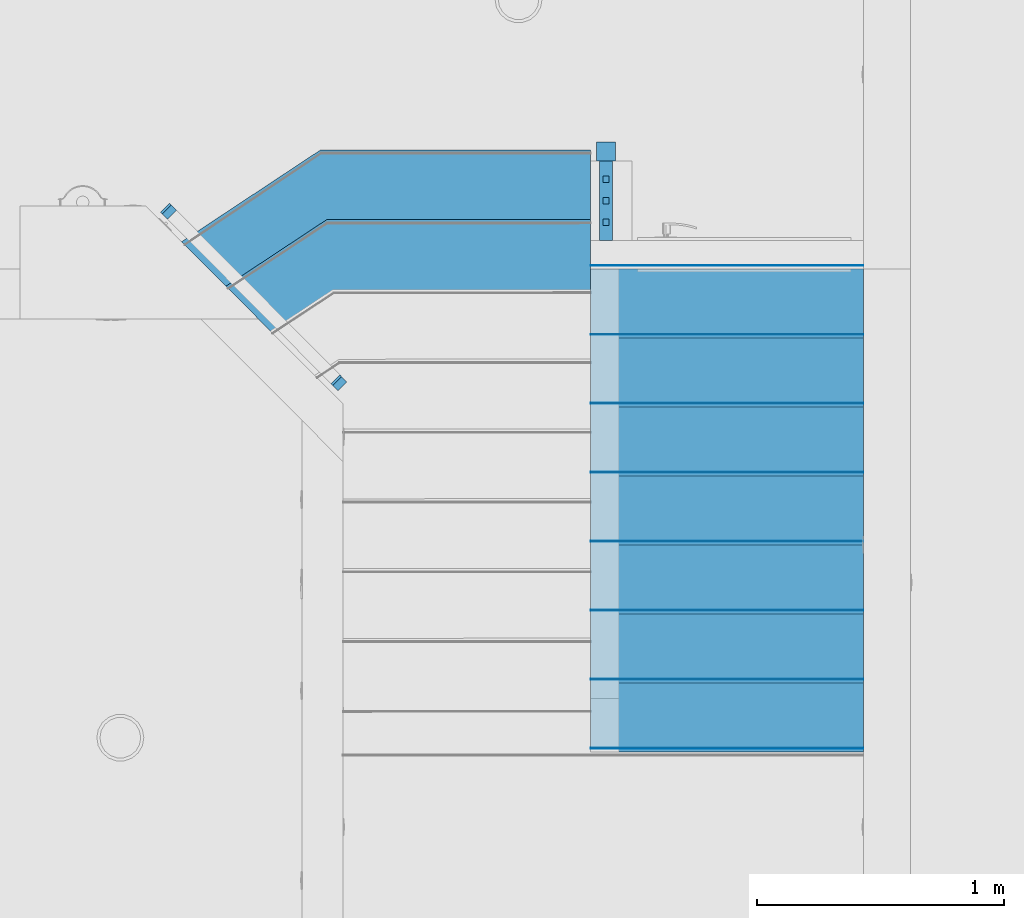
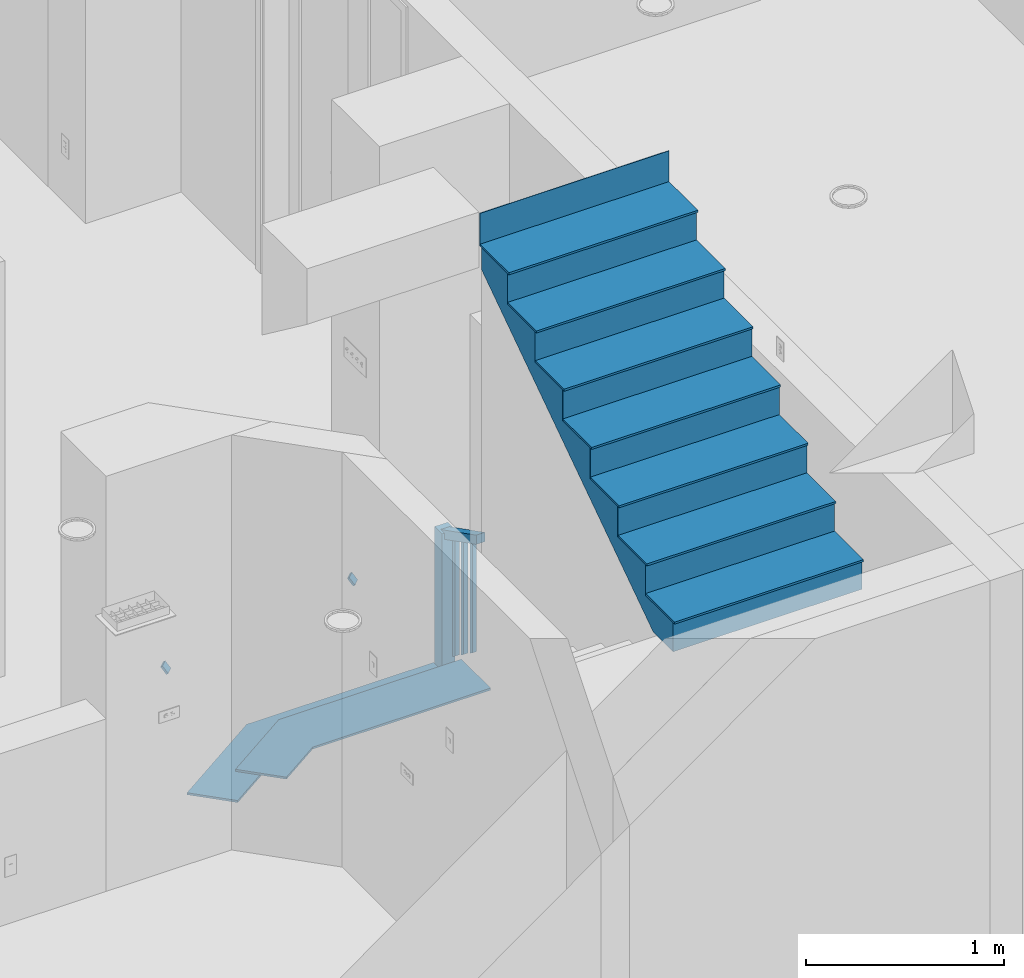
# One storey, part 2 of 48: 25 building element parts, 4 elements without a shape of their own.
"""IFC2X3 building model written with IfcOpenShell, lengths in inches."""

from ifc_helpers import new_model, entity, si_unit, converted_unit, derived_unit, money_unit, direction, frame, origin_with_axes, place, context, subcontext, project, spatial, faceted_brep, material, type_object, element, aggregate, save


model = new_model("IFC2X3")

# Units and contexts
model_context = context("Model", 3, precision=0.00039370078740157, world=origin_with_axes(), true_north=direction((0.0, 1.0)))
plan_context = context("Plan", 3, precision=0.00039370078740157, world=origin_with_axes(), true_north=direction((0.0, 1.0)))
body_context = subcontext(model_context, "Body", "Model", "MODEL_VIEW")
ifc_project = project(units=[converted_unit("LENGTHUNIT", "INCH", entity("IfcPositiveLengthMeasure", 0.0254), si_unit("LENGTHUNIT", "METRE"), dimensions=[1, 0, 0, 0, 0, 0, 0]), converted_unit("AREAUNIT", "SQUARE_FOOT", entity("IfcPositiveLengthMeasure", 0.09290304), si_unit("AREAUNIT", "SQUARE_METRE"), dimensions=[2, 0, 0, 0, 0, 0, 0]), si_unit("PLANEANGLEUNIT", "RADIAN"), si_unit("SOLIDANGLEUNIT", "STERADIAN"), money_unit("USD"), converted_unit("TIMEUNIT", "Year", entity("IfcTimeMeasure", 31557600.0), si_unit("TIMEUNIT", "SECOND"), dimensions=[0, 0, 1, 0, 0, 0, 0]), si_unit("MASSUNIT", "GRAM", prefix="KILO"), si_unit("THERMODYNAMICTEMPERATUREUNIT", "DEGREE_CELSIUS"), si_unit("LUMINOUSINTENSITYUNIT", "LUMEN"), si_unit("ENERGYUNIT", "JOULE", prefix="MEGA"), derived_unit("SPECIFICHEATCAPACITYUNIT", [(si_unit("ENERGYUNIT", "JOULE"), 1), (si_unit("MASSUNIT", "GRAM", prefix="KILO"), -1), (si_unit("THERMODYNAMICTEMPERATUREUNIT", "KELVIN"), -1)])], contexts=[model_context, plan_context])

# Site, building, storey
site_placement = place(None, origin_with_axes())
site = spatial("IfcSite", under=ifc_project, at=site_placement, Name="Site", CompositionType="ELEMENT")
building_placement = place(site_placement, origin_with_axes())
building = spatial("IfcBuilding", under=site, at=building_placement, Name="Building", CompositionType="ELEMENT")
storey_placement = place(building_placement, origin_with_axes())
storey = spatial("IfcBuildingStorey", under=building, at=storey_placement, Name="First Floor", CompositionType="ELEMENT", Elevation=0.0)

# Proxy, building element parts
building_element_proxy_type = type_object("IfcBuildingElementProxyType", Name="Railing Type", PredefinedType="NOTDEFINED")
proxy_1_placement = place(storey_placement, frame((161.4999999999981, 105.9237063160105, -3.290656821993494), z_axis=(0.0, 0.0, 1.0), x_axis=(-1.0, 0.0, 0.0)))
proxy_1 = element("IfcBuildingElementProxy", 1, at=proxy_1_placement, inside=storey, type_object=building_element_proxy_type, Name="RAILING - 001")
ifc_material = material(Name="Wood - Trim")
building_element_part_1_placement = place(proxy_1_placement, origin_with_axes())
building_element_part_1 = element("IfcBuildingElementPart", 2, at=building_element_part_1_placement, material=ifc_material, Name="Wood - Trim", context=body_context, shape_type="Brep", body=[
    faceted_brep([(1.901894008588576, -3.271557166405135, 68.29777093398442), (1.062592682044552, -2.426411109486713, 66.6911280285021), (0.7795628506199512, -2.141410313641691, 66.98890086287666), (1.61886417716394, -2.986556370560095, 68.59554376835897), (0.4827819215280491, -4.680855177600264, 68.29777093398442), (-0.3565194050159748, -3.835709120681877, 66.6911280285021), (-0.6395492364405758, -3.550708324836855, 66.98890086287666), (0.1997520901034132, -4.395854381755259, 68.59554376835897)], [[[0, 1, 2, 3]], [[0, 4, 5, 1]], [[1, 5, 6, 2]], [[3, 2, 6, 7]], [[4, 0, 3, 7]], [[5, 4, 7, 6]]]),
])
building_element_part_2_placement = place(proxy_1_placement, origin_with_axes())
building_element_part_2 = element("IfcBuildingElementPart", 3, at=building_element_part_2_placement, material=ifc_material, Name="Wood - Trim", context=body_context, shape_type="Brep", body=[
    faceted_brep([(27.37950456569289, -31.76488134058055, 39.99999999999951), (26.54020323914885, -30.91973528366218, 38.39335709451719), (26.8232330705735, -31.20473607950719, 38.09558426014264), (27.66253439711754, -32.04988213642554, 39.70222716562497), (28.79861665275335, -30.35558332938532, 39.99999999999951), (27.95931532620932, -29.51043727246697, 38.39335709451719), (28.24234515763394, -29.79543806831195, 38.09558426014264), (29.08164648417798, -30.6405841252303, 39.70222716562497)], [[[0, 1, 2, 3]], [[0, 4, 5, 1]], [[1, 5, 6, 2]], [[3, 2, 6, 7]], [[4, 0, 3, 7]], [[5, 4, 7, 6]]]),
])
aggregate(proxy_1, [building_element_part_1, building_element_part_2])

# Stair, building element parts
stair_1_placement = place(storey_placement, frame((200.999999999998, 50.50000017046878, 67.99999999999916), z_axis=(0.0, 0.0, 1.0), x_axis=(1.0, 0.0, 0.0)))
stair_1 = element("IfcStair", 4, at=stair_1_placement, inside=storey, Name="STAIR-01", ShapeType="NOTDEFINED")
building_element_part_3_placement = place(stair_1_placement, origin_with_axes())
building_element_part_3 = element("IfcBuildingElementPart", 5, at=building_element_part_3_placement, material=ifc_material, Name="Wood - Trim", context=body_context, shape_type="Brep", body=[
    faceted_brep([(43.49999999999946, 69.66666651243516, 41.72989677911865), (43.49999999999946, 73.33333317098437, 44.2298967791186), (43.49999999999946, 76.99999982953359, 46.72989677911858), (43.49999999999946, 76.99999982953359, 51.99999999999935), (43.49999999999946, 66.62893686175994, 51.99999999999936), (43.49999999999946, 66.62893686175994, 44.49999999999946), (43.49999999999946, 55.62893688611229, 44.49999999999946), (43.49999999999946, 55.62893688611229, 36.99999999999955), (43.49999999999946, 44.62893691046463, 36.99999999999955), (43.49999999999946, 44.62893691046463, 29.49999999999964), (43.49999999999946, 33.62893693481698, 29.49999999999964), (43.49999999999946, 33.62893693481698, 21.99999999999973), (43.49999999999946, 22.62893695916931, 21.99999999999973), (43.49999999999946, 22.62893695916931, 14.49999999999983), (43.49999999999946, 11.62893698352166, 14.49999999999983), (43.49999999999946, 11.62893698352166, 6.999999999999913), (43.49999999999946, 0.6289370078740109, 6.999999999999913), (43.49999999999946, 0.6289370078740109, 0.0), (43.49999999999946, 8.4628180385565, 0.0), (43.49999999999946, 10.99999997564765, 1.729896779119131), (43.49999999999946, 14.66666663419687, 4.229896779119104), (43.49999999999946, 18.33333329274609, 6.72989677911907), (43.49999999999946, 21.99999995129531, 9.229896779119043), (43.49999999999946, 25.66666660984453, 11.72989677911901), (43.49999999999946, 29.33333326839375, 14.22989677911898), (43.49999999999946, 32.99999992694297, 16.72989677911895), (43.49999999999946, 36.66666658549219, 19.22989677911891), (43.49999999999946, 40.33333324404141, 21.72989677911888), (43.49999999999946, 43.99999990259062, 24.22989677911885), (43.49999999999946, 47.66666656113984, 26.72989677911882), (43.49999999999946, 51.33333321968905, 29.22989677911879), (43.49999999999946, 54.99999987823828, 31.72989677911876), (43.49999999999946, 58.6666665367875, 34.22989677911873), (43.49999999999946, 62.33333319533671, 36.7298967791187), (43.49999999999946, 65.99999985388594, 39.22989677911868), (0.0, 73.33333317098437, 44.2298967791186), (0.0, 69.66666651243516, 41.72989677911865), (0.0, 76.99999982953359, 46.72989677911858), (0.0, 76.99999982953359, 51.99999999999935), (0.0, 66.62893686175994, 51.99999999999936), (0.0, 66.62893686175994, 44.49999999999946), (0.0, 55.62893688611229, 44.49999999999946), (0.0, 55.62893688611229, 36.99999999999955), (0.0, 44.62893691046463, 36.99999999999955), (0.0, 44.62893691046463, 29.49999999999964), (0.0, 33.62893693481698, 29.49999999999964), (0.0, 33.62893693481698, 21.99999999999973), (0.0, 22.62893695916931, 21.99999999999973), (0.0, 22.62893695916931, 14.49999999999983), (0.0, 11.62893698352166, 14.49999999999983), (0.0, 11.62893698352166, 6.999999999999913), (0.0, 0.6289370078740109, 6.999999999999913), (0.0, 0.6289370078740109, 0.0), (0.0, 8.4628180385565, 0.0), (0.0, 10.99999997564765, 1.729896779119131), (0.0, 14.66666663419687, 4.229896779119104), (0.0, 18.33333329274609, 6.72989677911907), (0.0, 21.99999995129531, 9.229896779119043), (0.0, 25.66666660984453, 11.72989677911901), (0.0, 29.33333326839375, 14.22989677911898), (0.0, 32.99999992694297, 16.72989677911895), (0.0, 36.66666658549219, 19.22989677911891), (0.0, 40.33333324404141, 21.72989677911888), (0.0, 43.99999990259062, 24.22989677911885), (0.0, 47.66666656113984, 26.72989677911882), (0.0, 51.33333321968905, 29.22989677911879), (0.0, 54.99999987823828, 31.72989677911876), (0.0, 58.6666665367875, 34.22989677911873), (0.0, 62.33333319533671, 36.7298967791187), (0.0, 65.99999985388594, 39.22989677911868)], [[[0, 1, 2, 3, 4, 5, 6, 7, 8, 9, 10, 11, 12, 13, 14, 15, 16, 17, 18, 19, 20, 21, 22, 23, 24, 25, 26, 27, 28, 29, 30, 31, 32, 33, 34]], [[35, 1, 0, 36]], [[37, 2, 1, 35]], [[3, 2, 37, 38]], [[3, 38, 39, 4]], [[39, 40, 5, 4]], [[41, 6, 5, 40]], [[41, 42, 7, 6]], [[43, 8, 7, 42]], [[43, 44, 9, 8]], [[45, 10, 9, 44]], [[45, 46, 11, 10]], [[47, 12, 11, 46]], [[47, 48, 13, 12]], [[49, 14, 13, 48]], [[49, 50, 15, 14]], [[51, 16, 15, 50]], [[52, 17, 16, 51]], [[18, 17, 52, 53]], [[54, 19, 18, 53]], [[55, 20, 19, 54]], [[56, 21, 20, 55]], [[57, 22, 21, 56]], [[58, 23, 22, 57]], [[59, 24, 23, 58]], [[60, 25, 24, 59]], [[61, 26, 25, 60]], [[62, 27, 26, 61]], [[63, 28, 27, 62]], [[64, 29, 28, 63]], [[65, 30, 29, 64]], [[66, 31, 30, 65]], [[67, 32, 31, 66]], [[68, 33, 32, 67]], [[69, 34, 33, 68]], [[36, 0, 34, 69]], [[53, 52, 51, 50, 49, 48, 47, 46, 45, 44, 43, 42, 41, 40, 39, 38, 37, 35, 36, 69, 68, 67, 66, 65, 64, 63, 62, 61, 60, 59, 58, 57, 56, 55, 54]]]),
])
building_element_part_4_placement = place(stair_1_placement, origin_with_axes())
building_element_part_4 = element("IfcBuildingElementPart", 6, at=building_element_part_4_placement, material=ifc_material, Name="Wood - Trim", context=body_context, shape_type="Brep", body=[
    faceted_brep([(43.4999999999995, 0.4999999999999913, 6.999999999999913), (43.4999999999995, 0.6249999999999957, 6.999999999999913), (0.0, 0.6249999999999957, 6.999999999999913), (0.0, 0.4999999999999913, 6.999999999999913), (43.4999999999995, 0.4999999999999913, 0.0), (43.4999999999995, 0.6249999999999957, 0.0), (0.0, 0.6249999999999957, 0.0), (0.0, 0.4999999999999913, 0.0)], [[[0, 1, 2, 3]], [[0, 4, 5, 1]], [[1, 5, 6, 2]], [[3, 2, 6, 7]], [[4, 0, 3, 7]], [[5, 4, 7, 6]]]),
])
building_element_part_5_placement = place(stair_1_placement, origin_with_axes())
building_element_part_5 = element("IfcBuildingElementPart", 7, at=building_element_part_5_placement, material=ifc_material, Name="Wood - Trim", context=body_context, shape_type="Brep", body=[
    faceted_brep([(43.4999999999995, 11.49999997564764, 14.49999999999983), (43.4999999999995, 11.62499997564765, 14.49999999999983), (0.0, 11.62499997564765, 14.49999999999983), (0.0, 11.49999997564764, 14.49999999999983), (43.4999999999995, 11.49999997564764, 6.999999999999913), (43.4999999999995, 11.62499997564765, 6.999999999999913), (0.0, 11.62499997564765, 6.999999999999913), (0.0, 11.49999997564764, 6.999999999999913)], [[[0, 1, 2, 3]], [[0, 4, 5, 1]], [[1, 5, 6, 2]], [[3, 2, 6, 7]], [[4, 0, 3, 7]], [[5, 4, 7, 6]]]),
])
building_element_part_6_placement = place(stair_1_placement, origin_with_axes())
building_element_part_6 = element("IfcBuildingElementPart", 8, at=building_element_part_6_placement, material=ifc_material, Name="Wood - Trim", context=body_context, shape_type="Brep", body=[
    faceted_brep([(43.4999999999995, 22.4999999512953, 21.99999999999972), (43.4999999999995, 22.62499995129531, 21.99999999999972), (0.0, 22.62499995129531, 21.99999999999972), (0.0, 22.4999999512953, 21.99999999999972), (43.4999999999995, 22.4999999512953, 14.49999999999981), (43.4999999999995, 22.62499995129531, 14.49999999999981), (0.0, 22.62499995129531, 14.49999999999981), (0.0, 22.4999999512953, 14.49999999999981)], [[[0, 1, 2, 3]], [[0, 4, 5, 1]], [[1, 5, 6, 2]], [[3, 2, 6, 7]], [[4, 0, 3, 7]], [[5, 4, 7, 6]]]),
])
building_element_part_7_placement = place(stair_1_placement, origin_with_axes())
building_element_part_7 = element("IfcBuildingElementPart", 9, at=building_element_part_7_placement, material=ifc_material, Name="Wood - Trim", context=body_context, shape_type="Brep", body=[
    faceted_brep([(43.4999999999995, 33.49999992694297, 29.49999999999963), (43.4999999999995, 33.62499992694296, 29.49999999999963), (0.0, 33.62499992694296, 29.49999999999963), (0.0, 33.49999992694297, 29.49999999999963), (43.4999999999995, 33.49999992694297, 21.99999999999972), (43.4999999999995, 33.62499992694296, 21.99999999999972), (0.0, 33.62499992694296, 21.99999999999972), (0.0, 33.49999992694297, 21.99999999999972)], [[[0, 1, 2, 3]], [[0, 4, 5, 1]], [[1, 5, 6, 2]], [[3, 2, 6, 7]], [[4, 0, 3, 7]], [[5, 4, 7, 6]]]),
])
building_element_part_8_placement = place(stair_1_placement, origin_with_axes())
building_element_part_8 = element("IfcBuildingElementPart", 10, at=building_element_part_8_placement, material=ifc_material, Name="Wood - Trim", context=body_context, shape_type="Brep", body=[
    faceted_brep([(43.4999999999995, 44.49999990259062, 36.99999999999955), (43.4999999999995, 44.62499990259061, 36.99999999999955), (0.0, 44.62499990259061, 36.99999999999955), (0.0, 44.49999990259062, 36.99999999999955), (43.4999999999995, 44.49999990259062, 29.49999999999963), (43.4999999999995, 44.62499990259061, 29.49999999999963), (0.0, 44.62499990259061, 29.49999999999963), (0.0, 44.49999990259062, 29.49999999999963)], [[[0, 1, 2, 3]], [[0, 4, 5, 1]], [[1, 5, 6, 2]], [[3, 2, 6, 7]], [[4, 0, 3, 7]], [[5, 4, 7, 6]]]),
])
building_element_part_9_placement = place(stair_1_placement, origin_with_axes())
building_element_part_9 = element("IfcBuildingElementPart", 11, at=building_element_part_9_placement, material=ifc_material, Name="Wood - Trim", context=body_context, shape_type="Brep", body=[
    faceted_brep([(43.4999999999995, 55.49999987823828, 44.49999999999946), (43.4999999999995, 55.62499987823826, 44.49999999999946), (0.0, 55.62499987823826, 44.49999999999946), (0.0, 55.49999987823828, 44.49999999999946), (43.4999999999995, 55.49999987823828, 36.99999999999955), (43.4999999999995, 55.62499987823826, 36.99999999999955), (0.0, 55.62499987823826, 36.99999999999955), (0.0, 55.49999987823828, 36.99999999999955)], [[[0, 1, 2, 3]], [[0, 4, 5, 1]], [[1, 5, 6, 2]], [[3, 2, 6, 7]], [[4, 0, 3, 7]], [[5, 4, 7, 6]]]),
])
building_element_part_10_placement = place(stair_1_placement, origin_with_axes())
building_element_part_10 = element("IfcBuildingElementPart", 12, at=building_element_part_10_placement, material=ifc_material, Name="Wood - Trim", context=body_context, shape_type="Brep", body=[
    faceted_brep([(43.4999999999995, 66.49999985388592, 51.99999999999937), (43.4999999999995, 66.62499985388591, 51.99999999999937), (0.0, 66.62499985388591, 51.99999999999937), (0.0, 66.49999985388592, 51.99999999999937), (43.4999999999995, 66.49999985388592, 44.49999999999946), (43.4999999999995, 66.62499985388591, 44.49999999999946), (0.0, 66.62499985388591, 44.49999999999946), (0.0, 66.49999985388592, 44.49999999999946)], [[[0, 1, 2, 3]], [[0, 4, 5, 1]], [[1, 5, 6, 2]], [[3, 2, 6, 7]], [[4, 0, 3, 7]], [[5, 4, 7, 6]]]),
])
building_element_part_11_placement = place(stair_1_placement, origin_with_axes())
building_element_part_11 = element("IfcBuildingElementPart", 13, at=building_element_part_11_placement, material=ifc_material, Name="Wood - Trim", context=body_context, shape_type="Brep", body=[
    faceted_brep([(43.4999999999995, 77.49999982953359, 59.99999999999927), (43.4999999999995, 77.62499982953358, 59.99999999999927), (0.0, 77.62499982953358, 59.99999999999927), (0.0, 77.49999982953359, 59.99999999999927), (43.4999999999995, 77.49999982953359, 51.99999999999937), (43.4999999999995, 77.62499982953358, 51.99999999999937), (0.0, 77.62499982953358, 51.99999999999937), (0.0, 77.49999982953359, 51.99999999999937)], [[[0, 1, 2, 3]], [[0, 4, 5, 1]], [[1, 5, 6, 2]], [[3, 2, 6, 7]], [[4, 0, 3, 7]], [[5, 4, 7, 6]]]),
])
building_element_part_12_placement = place(stair_1_placement, origin_with_axes())
building_element_part_12 = element("IfcBuildingElementPart", 14, at=building_element_part_12_placement, material=ifc_material, Name="Wood - Trim", context=body_context, shape_type="Brep", body=[
    faceted_brep([(0.0, 0.0, 6.999999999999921), (43.4999999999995, 0.0, 6.999999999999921), (43.4999999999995, 0.0, 7.499999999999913), (0.0, 0.0, 7.499999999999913), (0.0, 11.50000006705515, 6.999999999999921), (43.4999999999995, 11.50000006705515, 6.999999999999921), (43.4999999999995, 11.50000006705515, 7.499999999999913), (0.0, 11.50000006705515, 7.499999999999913)], [[[0, 1, 2, 3]], [[0, 4, 5, 1]], [[1, 5, 6, 2]], [[3, 2, 6, 7]], [[4, 0, 3, 7]], [[5, 4, 7, 6]]]),
])
building_element_part_13_placement = place(stair_1_placement, origin_with_axes())
building_element_part_13 = element("IfcBuildingElementPart", 15, at=building_element_part_13_placement, material=ifc_material, Name="Wood - Trim", context=body_context, shape_type="Brep", body=[
    faceted_brep([(0.0, 10.99999997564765, 14.49999999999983), (43.4999999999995, 10.99999997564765, 14.49999999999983), (43.4999999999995, 10.99999997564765, 14.99999999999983), (0.0, 10.99999997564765, 14.99999999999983), (0.0, 22.5000000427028, 14.49999999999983), (43.4999999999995, 22.5000000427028, 14.49999999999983), (43.4999999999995, 22.5000000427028, 14.99999999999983), (0.0, 22.5000000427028, 14.99999999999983)], [[[0, 1, 2, 3]], [[0, 4, 5, 1]], [[1, 5, 6, 2]], [[3, 2, 6, 7]], [[4, 0, 3, 7]], [[5, 4, 7, 6]]]),
])
building_element_part_14_placement = place(stair_1_placement, origin_with_axes())
building_element_part_14 = element("IfcBuildingElementPart", 16, at=building_element_part_14_placement, material=ifc_material, Name="Wood - Trim", context=body_context, shape_type="Brep", body=[
    faceted_brep([(0.0, 21.99999995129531, 21.99999999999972), (43.4999999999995, 21.99999995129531, 21.99999999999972), (43.4999999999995, 21.99999995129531, 22.49999999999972), (0.0, 21.99999995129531, 22.49999999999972), (0.0, 33.50000001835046, 21.99999999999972), (43.4999999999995, 33.50000001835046, 21.99999999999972), (43.4999999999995, 33.50000001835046, 22.49999999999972), (0.0, 33.50000001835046, 22.49999999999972)], [[[0, 1, 2, 3]], [[0, 4, 5, 1]], [[1, 5, 6, 2]], [[3, 2, 6, 7]], [[4, 0, 3, 7]], [[5, 4, 7, 6]]]),
])
building_element_part_15_placement = place(stair_1_placement, origin_with_axes())
building_element_part_15 = element("IfcBuildingElementPart", 17, at=building_element_part_15_placement, material=ifc_material, Name="Wood - Trim", context=body_context, shape_type="Brep", body=[
    faceted_brep([(0.0, 32.99999992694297, 29.49999999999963), (43.4999999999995, 32.99999992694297, 29.49999999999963), (43.4999999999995, 32.99999992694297, 29.99999999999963), (0.0, 32.99999992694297, 29.99999999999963), (0.0, 44.49999999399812, 29.49999999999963), (43.4999999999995, 44.49999999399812, 29.49999999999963), (43.4999999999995, 44.49999999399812, 29.99999999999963), (0.0, 44.49999999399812, 29.99999999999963)], [[[0, 1, 2, 3]], [[0, 4, 5, 1]], [[1, 5, 6, 2]], [[3, 2, 6, 7]], [[4, 0, 3, 7]], [[5, 4, 7, 6]]]),
])
building_element_part_16_placement = place(stair_1_placement, origin_with_axes())
building_element_part_16 = element("IfcBuildingElementPart", 18, at=building_element_part_16_placement, material=ifc_material, Name="Wood - Trim", context=body_context, shape_type="Brep", body=[
    faceted_brep([(0.0, 43.99999990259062, 36.99999999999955), (43.4999999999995, 43.99999990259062, 36.99999999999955), (43.4999999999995, 43.99999990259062, 37.49999999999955), (0.0, 43.99999990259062, 37.49999999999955), (0.0, 55.49999996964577, 36.99999999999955), (43.4999999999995, 55.49999996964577, 36.99999999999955), (43.4999999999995, 55.49999996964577, 37.49999999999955), (0.0, 55.49999996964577, 37.49999999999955)], [[[0, 1, 2, 3]], [[0, 4, 5, 1]], [[1, 5, 6, 2]], [[3, 2, 6, 7]], [[4, 0, 3, 7]], [[5, 4, 7, 6]]]),
])
building_element_part_17_placement = place(stair_1_placement, origin_with_axes())
building_element_part_17 = element("IfcBuildingElementPart", 19, at=building_element_part_17_placement, material=ifc_material, Name="Wood - Trim", context=body_context, shape_type="Brep", body=[
    faceted_brep([(0.0, 54.99999987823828, 44.49999999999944), (43.4999999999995, 54.99999987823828, 44.49999999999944), (43.4999999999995, 54.99999987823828, 44.99999999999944), (0.0, 54.99999987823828, 44.99999999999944), (0.0, 66.49999994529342, 44.49999999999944), (43.4999999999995, 66.49999994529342, 44.49999999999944), (43.4999999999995, 66.49999994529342, 44.99999999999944), (0.0, 66.49999994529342, 44.99999999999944)], [[[0, 1, 2, 3]], [[0, 4, 5, 1]], [[1, 5, 6, 2]], [[3, 2, 6, 7]], [[4, 0, 3, 7]], [[5, 4, 7, 6]]]),
])
building_element_part_18_placement = place(stair_1_placement, origin_with_axes())
building_element_part_18 = element("IfcBuildingElementPart", 20, at=building_element_part_18_placement, material=ifc_material, Name="Wood - Trim", context=body_context, shape_type="Brep", body=[
    faceted_brep([(0.0, 65.99999985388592, 51.99999999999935), (43.4999999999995, 65.99999985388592, 51.99999999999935), (43.4999999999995, 65.99999985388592, 52.49999999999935), (0.0, 65.99999985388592, 52.49999999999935), (0.0, 76.99999982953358, 51.99999999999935), (0.0, 77.49999982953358, 51.99999999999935), (43.4999999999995, 77.49999982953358, 51.99999999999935), (43.4999999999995, 76.99999982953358, 51.99999999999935), (43.4999999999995, 76.99999982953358, 52.49999999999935), (43.4999999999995, 77.49999982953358, 52.49999999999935), (0.0, 77.49999982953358, 52.49999999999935), (0.0, 76.99999982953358, 52.49999999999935)], [[[0, 1, 2, 3]], [[0, 4, 5, 6, 7, 1]], [[1, 7, 8, 2]], [[3, 2, 8, 9, 10, 11]], [[4, 0, 3, 11]], [[5, 4, 11, 10]], [[6, 5, 10, 9]], [[7, 6, 9, 8]]]),
])
aggregate(stair_1, [building_element_part_3, building_element_part_4, building_element_part_5, building_element_part_6, building_element_part_7, building_element_part_8, building_element_part_9, building_element_part_10, building_element_part_11, building_element_part_12, building_element_part_13, building_element_part_14, building_element_part_15, building_element_part_16, building_element_part_17, building_element_part_18])

# Proxy, building element parts
proxy_2_placement = place(storey_placement, frame((205.4499583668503, 132.0000000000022, 1.499999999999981), z_axis=(0.0, 0.0, 1.0), x_axis=(1.0, 0.0, 0.0)))
proxy_2 = element("IfcBuildingElementProxy", 21, at=proxy_2_placement, inside=storey, type_object=building_element_proxy_type, Name="RA-07")
building_element_part_19_placement = place(proxy_2_placement, origin_with_axes())
building_element_part_19 = element("IfcBuildingElementPart", 22, at=building_element_part_19_placement, material=ifc_material, Name="Wood - Trim", context=body_context, shape_type="Brep", body=[
    faceted_brep([(-2.999999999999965, 0.0, 45.2457627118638), (-0.999999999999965, 0.0, 45.2457627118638), (-0.999999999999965, 14.24999999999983, 37.99999999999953), (-2.999999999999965, 14.24999999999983, 37.99999999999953), (-0.999999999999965, 0.0, 43.00206362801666), (-2.999999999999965, 0.0, 43.00206362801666), (-0.999999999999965, 13.34350664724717, 36.21722973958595), (-2.999999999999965, 13.34350664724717, 36.21722973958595)], [[[0, 1, 2, 3]], [[4, 1, 0, 5]], [[1, 4, 6, 2]], [[3, 2, 6, 7]], [[5, 0, 3, 7]], [[4, 5, 7, 6]]]),
])
building_element_part_20_placement = place(proxy_2_placement, origin_with_axes())
building_element_part_20 = element("IfcBuildingElementPart", 23, at=building_element_part_20_placement, material=ifc_material, Name="Wood - Trim", context=body_context, shape_type="Brep", body=[
    faceted_brep([(-1.499999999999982, 2.437499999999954, 14.95055237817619), (-1.499999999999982, 3.437499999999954, 14.22755568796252), (-1.499999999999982, 3.437499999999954, 41.49788135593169), (-1.499999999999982, 2.437499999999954, 42.00635593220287), (-2.499999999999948, 3.437499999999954, 14.22755568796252), (-2.499999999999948, 2.437499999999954, 14.95055237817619), (-2.499999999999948, 3.437499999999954, 41.49788135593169), (-2.499999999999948, 2.437499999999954, 42.00635593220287)], [[[0, 1, 2, 3]], [[4, 1, 0, 5]], [[1, 4, 6, 2]], [[3, 2, 6, 7]], [[5, 0, 3, 7]], [[4, 5, 7, 6]]]),
])
building_element_part_21_placement = place(proxy_2_placement, origin_with_axes())
building_element_part_21 = element("IfcBuildingElementPart", 24, at=building_element_part_21_placement, material=ifc_material, Name="Wood - Trim", context=body_context, shape_type="Brep", body=[
    faceted_brep([(-1.499999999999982, 5.874999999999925, 12.46525125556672), (-1.499999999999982, 6.874999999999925, 11.74225456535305), (-1.499999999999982, 6.874999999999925, 39.7499999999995), (-1.499999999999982, 5.874999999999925, 40.25847457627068), (-2.499999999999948, 6.874999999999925, 11.74225456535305), (-2.499999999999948, 5.874999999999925, 12.46525125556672), (-2.499999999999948, 6.874999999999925, 39.7499999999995), (-2.499999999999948, 5.874999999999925, 40.25847457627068)], [[[0, 1, 2, 3]], [[4, 1, 0, 5]], [[1, 4, 6, 2]], [[3, 2, 6, 7]], [[5, 0, 3, 7]], [[4, 5, 7, 6]]]),
])
building_element_part_22_placement = place(proxy_2_placement, origin_with_axes())
building_element_part_22 = element("IfcBuildingElementPart", 25, at=building_element_part_22_placement, material=ifc_material, Name="Wood - Trim", context=body_context, shape_type="Brep", body=[
    faceted_brep([(-0.4999999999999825, 15.74999999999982, -1.500000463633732), (-3.499999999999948, 15.74999999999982, -1.500000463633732), (-3.499999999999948, 15.74999999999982, 37.99999999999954), (-0.4999999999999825, 15.74999999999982, 37.99999999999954), (-0.4999999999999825, 12.74999999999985, -1.500000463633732), (-3.499999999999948, 12.74999999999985, -1.500000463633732), (-3.499999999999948, 12.74999999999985, 37.99999999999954), (-0.4999999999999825, 12.74999999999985, 37.99999999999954)], [[[0, 1, 2, 3]], [[0, 4, 5, 1]], [[1, 5, 6, 2]], [[3, 2, 6, 7]], [[4, 0, 3, 7]], [[5, 4, 7, 6]]]),
])
building_element_part_23_placement = place(proxy_2_placement, origin_with_axes())
building_element_part_23 = element("IfcBuildingElementPart", 26, at=building_element_part_23_placement, material=ifc_material, Name="Wood - Trim", context=body_context, shape_type="Brep", body=[
    faceted_brep([(-1.499999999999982, 9.31249999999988, 9.979950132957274), (-1.499999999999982, 10.31249999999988, 9.256953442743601), (-1.499999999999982, 10.31249999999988, 38.00211864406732), (-1.499999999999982, 9.31249999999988, 38.5105932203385), (-2.499999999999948, 10.31249999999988, 9.256953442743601), (-2.499999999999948, 9.31249999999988, 9.979950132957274), (-2.499999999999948, 10.31249999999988, 38.00211864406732), (-2.499999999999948, 9.31249999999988, 38.5105932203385)], [[[0, 1, 2, 3]], [[4, 1, 0, 5]], [[1, 4, 6, 2]], [[3, 2, 6, 7]], [[5, 0, 3, 7]], [[4, 5, 7, 6]]]),
])
aggregate(proxy_2, [building_element_part_19, building_element_part_20, building_element_part_21, building_element_part_22, building_element_part_23])

# Stair, building element parts
stair_2_placement = place(storey_placement, frame((200.9849073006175, 146.4999999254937, 0.0), z_axis=(0.0, 0.0, 1.0), x_axis=(1.0, 0.0, 0.0)))
stair_2 = element("IfcStair", 27, at=stair_2_placement, inside=storey, Name="STAIR-01", ShapeType="NOTDEFINED")
building_element_part_24_placement = place(stair_2_placement, origin_with_axes())
building_element_part_24 = element("IfcBuildingElementPart", 28, at=building_element_part_24_placement, material=ifc_material, Name="Wood - Trim", context=body_context, shape_type="Brep", body=[
    faceted_brep([(-65.21607558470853, -14.66791086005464, 7.027777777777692), (-57.82326603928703, -22.0897049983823, 7.027777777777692), (-57.82326603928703, -22.0897049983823, 7.527777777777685), (-65.21607558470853, -14.66791086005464, 7.527777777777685), (-43.02839830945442, -3.596013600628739e-07, 7.027777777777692), (-39.49998976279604, -0.02864483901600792, 7.027777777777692), (-5.78702789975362e-08, -3.596013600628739e-07, 7.027777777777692), (0.008430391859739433, -11.62499960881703, 7.027777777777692), (-39.49155931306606, -11.65364506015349, 7.027777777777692), (-42.05161981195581, -11.6555014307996, 7.027777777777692), (-42.05161981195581, -11.6555014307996, 7.527777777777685), (-39.49155931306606, -11.65364506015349, 7.527777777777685), (0.008430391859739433, -11.62499960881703, 7.527777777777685), (-5.78702789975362e-08, -3.596013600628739e-07, 7.527777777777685), (-39.49998976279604, -0.02864483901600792, 7.527777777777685), (-43.02839830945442, -3.596013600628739e-07, 7.527777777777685)], [[[0, 1, 2, 3]], [[0, 4, 5, 6, 7, 8, 9, 1]], [[1, 9, 10, 2]], [[3, 2, 10, 11, 12, 13, 14, 15]], [[4, 0, 3, 15]], [[5, 4, 15, 14]], [[6, 5, 14, 13]], [[7, 6, 13, 12]], [[8, 7, 12, 11]], [[9, 8, 11, 10]]]),
])
building_element_part_25_placement = place(stair_2_placement, origin_with_axes())
building_element_part_25 = element("IfcBuildingElementPart", 29, at=building_element_part_25_placement, material=ifc_material, Name="Wood - Trim", context=body_context, shape_type="Brep", body=[
    faceted_brep([(0.008067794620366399, -11.12499995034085, 14.55555555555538), (-42.05502301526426, -11.12499995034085, 14.55555555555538), (-42.05502301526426, -11.12499995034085, 15.05555555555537), (0.008067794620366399, -11.12499995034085, 15.05555555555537), (0.0164981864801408, -22.74999952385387, 14.55555555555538), (-40.98307117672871, -22.77973245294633, 14.55555555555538), (-50.72250034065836, -29.21831018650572, 14.55555555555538), (-58.1479364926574, -21.76376163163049, 14.55555555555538), (-58.1479364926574, -21.76376163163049, 15.05555555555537), (-50.72250034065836, -29.21831018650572, 15.05555555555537), (-40.98307117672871, -22.77973245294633, 15.05555555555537), (0.0164981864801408, -22.74999952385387, 15.05555555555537)], [[[0, 1, 2, 3]], [[0, 4, 5, 6, 7, 1]], [[1, 7, 8, 2]], [[3, 2, 8, 9, 10, 11]], [[4, 0, 3, 11]], [[5, 4, 11, 10]], [[6, 5, 10, 9]], [[7, 6, 9, 8]]]),
])
aggregate(stair_2, [building_element_part_24, building_element_part_25])

save(model, "model.ifc")
